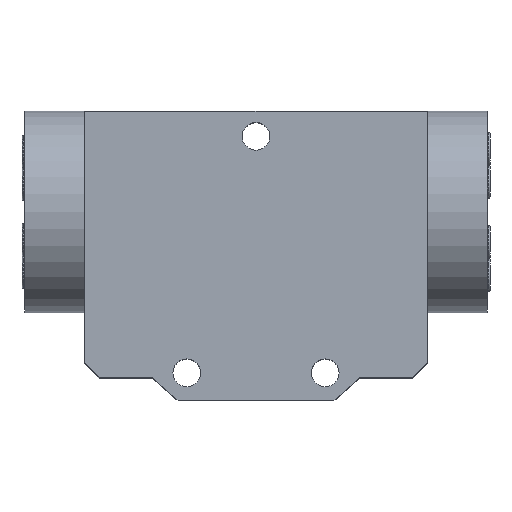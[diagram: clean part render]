
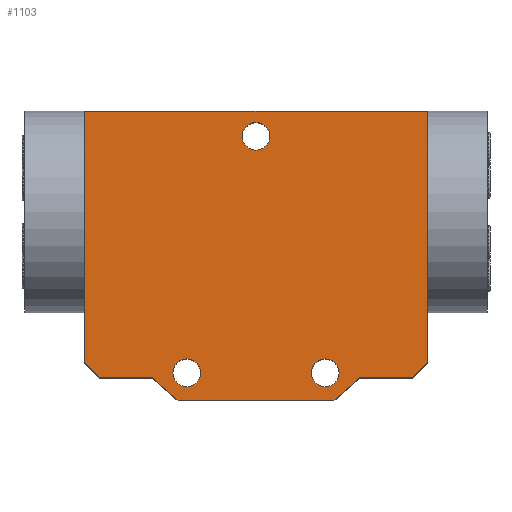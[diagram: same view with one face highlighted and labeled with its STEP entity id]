
A CAD part, top view. The second image highlights one B-rep face of the part: STEP entity #1103.
In plain terms, the highlighted planar face has unit normal (0, 0, 1).
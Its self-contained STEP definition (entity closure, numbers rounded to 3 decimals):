
#277=PLANE('',#7963);
#652=FACE_BOUND('',#2074,.T.);
#653=FACE_BOUND('',#2075,.T.);
#654=FACE_BOUND('',#2076,.T.);
#655=FACE_BOUND('',#2077,.T.);
#1103=ADVANCED_FACE('',(#652,#653,#654,#655),#277,.T.);
#2074=EDGE_LOOP('',(#3319));
#2075=EDGE_LOOP('',(#3320,#3321,#3322,#3323,#3324,#3325,#3326,#3327,#3328,
#3329));
#2076=EDGE_LOOP('',(#3330));
#2077=EDGE_LOOP('',(#3331));
#2919=CIRCLE('',#7960,5.5);
#2920=CIRCLE('',#7961,5.5);
#2921=CIRCLE('',#7962,5.5);
#3319=ORIENTED_EDGE('',*,*,#5960,.T.);
#3320=ORIENTED_EDGE('',*,*,#5890,.T.);
#3321=ORIENTED_EDGE('',*,*,#5961,.T.);
#3322=ORIENTED_EDGE('',*,*,#5962,.T.);
#3323=ORIENTED_EDGE('',*,*,#5963,.T.);
#3324=ORIENTED_EDGE('',*,*,#5964,.T.);
#3325=ORIENTED_EDGE('',*,*,#5965,.T.);
#3326=ORIENTED_EDGE('',*,*,#5966,.T.);
#3327=ORIENTED_EDGE('',*,*,#5967,.T.);
#3328=ORIENTED_EDGE('',*,*,#5934,.T.);
#3329=ORIENTED_EDGE('',*,*,#5958,.T.);
#3330=ORIENTED_EDGE('',*,*,#5968,.F.);
#3331=ORIENTED_EDGE('',*,*,#5969,.F.);
#5160=VERTEX_POINT('',#12726);
#5161=VERTEX_POINT('',#12728);
#5204=VERTEX_POINT('',#12815);
#5205=VERTEX_POINT('',#12817);
#5228=VERTEX_POINT('',#12868);
#5229=VERTEX_POINT('',#12870);
#5230=VERTEX_POINT('',#12872);
#5231=VERTEX_POINT('',#12874);
#5232=VERTEX_POINT('',#12876);
#5233=VERTEX_POINT('',#12878);
#5234=VERTEX_POINT('',#12880);
#5235=VERTEX_POINT('',#12883);
#5236=VERTEX_POINT('',#12885);
#5890=EDGE_CURVE('',#5161,#5160,#6815,.T.);
#5934=EDGE_CURVE('',#5205,#5204,#6835,.T.);
#5958=EDGE_CURVE('',#5204,#5161,#6846,.T.);
#5960=EDGE_CURVE('',#5228,#5228,#2919,.T.);
#5961=EDGE_CURVE('',#5160,#5229,#6847,.T.);
#5962=EDGE_CURVE('',#5229,#5230,#6848,.T.);
#5963=EDGE_CURVE('',#5230,#5231,#6849,.T.);
#5964=EDGE_CURVE('',#5231,#5232,#6850,.T.);
#5965=EDGE_CURVE('',#5232,#5233,#6851,.T.);
#5966=EDGE_CURVE('',#5233,#5234,#6852,.T.);
#5967=EDGE_CURVE('',#5234,#5205,#6853,.T.);
#5968=EDGE_CURVE('',#5235,#5235,#2920,.T.);
#5969=EDGE_CURVE('',#5236,#5236,#2921,.T.);
#6815=LINE('',#12727,#7361);
#6835=LINE('',#12816,#7381);
#6846=LINE('',#12863,#7392);
#6847=LINE('',#12869,#7393);
#6848=LINE('',#12871,#7394);
#6849=LINE('',#12873,#7395);
#6850=LINE('',#12875,#7396);
#6851=LINE('',#12877,#7397);
#6852=LINE('',#12879,#7398);
#6853=LINE('',#12881,#7399);
#7361=VECTOR('',#8789,1.);
#7381=VECTOR('',#8859,1.);
#7392=VECTOR('',#8898,1.);
#7393=VECTOR('',#8905,1.);
#7394=VECTOR('',#8906,1.);
#7395=VECTOR('',#8907,1.);
#7396=VECTOR('',#8908,1.);
#7397=VECTOR('',#8909,1.);
#7398=VECTOR('',#8910,1.);
#7399=VECTOR('',#8911,1.);
#7960=AXIS2_PLACEMENT_3D('',#12867,#8903,#8904);
#7961=AXIS2_PLACEMENT_3D('',#12882,#8912,#8913);
#7962=AXIS2_PLACEMENT_3D('',#12884,#8914,#8915);
#7963=AXIS2_PLACEMENT_3D('',#12886,#8916,#8917);
#8789=DIRECTION('',(0.,-1.,0.));
#8859=DIRECTION('',(0.,1.,0.));
#8898=DIRECTION('',(-1.,0.,0.));
#8903=DIRECTION('',(0.,0.,-1.));
#8904=DIRECTION('',(-1.,0.,0.));
#8905=DIRECTION('',(0.689,-0.725,0.));
#8906=DIRECTION('',(1.,0.,0.));
#8907=DIRECTION('',(0.746,-0.666,0.));
#8908=DIRECTION('',(1.,0.,0.));
#8909=DIRECTION('',(0.746,0.666,0.));
#8910=DIRECTION('',(1.,0.,0.));
#8911=DIRECTION('',(0.689,0.725,0.));
#8912=DIRECTION('',(0.,0.,1.));
#8913=DIRECTION('',(1.,0.,0.));
#8914=DIRECTION('',(0.,0.,1.));
#8915=DIRECTION('',(1.,0.,0.));
#8916=DIRECTION('',(0.,0.,1.));
#8917=DIRECTION('',(1.,0.,0.));
#12726=CARTESIAN_POINT('',(-68.,-42.549,80.));
#12727=CARTESIAN_POINT('',(-68.,57.5,80.));
#12728=CARTESIAN_POINT('',(-68.,57.5,80.));
#12815=CARTESIAN_POINT('',(68.,57.5,80.));
#12816=CARTESIAN_POINT('',(68.,-42.549,80.));
#12817=CARTESIAN_POINT('',(68.,-42.549,80.));
#12863=CARTESIAN_POINT('',(68.,57.5,80.));
#12867=CARTESIAN_POINT('',(27.5,-46.5,80.));
#12868=CARTESIAN_POINT('',(22.,-46.5,80.));
#12869=CARTESIAN_POINT('',(-68.,-42.549,80.));
#12870=CARTESIAN_POINT('',(-62.301,-48.541,80.));
#12871=CARTESIAN_POINT('',(-62.301,-48.541,80.));
#12872=CARTESIAN_POINT('',(-41.036,-48.541,80.));
#12873=CARTESIAN_POINT('',(-41.036,-48.541,80.));
#12874=CARTESIAN_POINT('',(-31.,-57.5,80.));
#12875=CARTESIAN_POINT('',(-31.,-57.5,80.));
#12876=CARTESIAN_POINT('',(31.,-57.5,80.));
#12877=CARTESIAN_POINT('',(31.,-57.5,80.));
#12878=CARTESIAN_POINT('',(41.036,-48.541,80.));
#12879=CARTESIAN_POINT('',(41.036,-48.541,80.));
#12880=CARTESIAN_POINT('',(62.301,-48.541,80.));
#12881=CARTESIAN_POINT('',(62.301,-48.541,80.));
#12882=CARTESIAN_POINT('',(0.,47.5,80.));
#12883=CARTESIAN_POINT('',(5.5,47.5,80.));
#12884=CARTESIAN_POINT('',(-27.5,-46.5,80.));
#12885=CARTESIAN_POINT('',(-22.,-46.5,80.));
#12886=CARTESIAN_POINT('',(0.,0.,80.));
